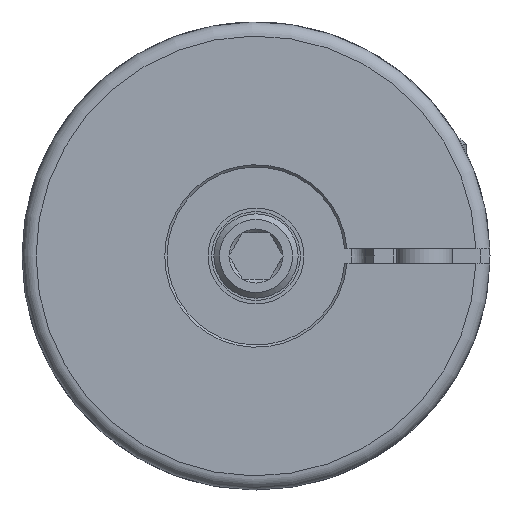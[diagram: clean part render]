
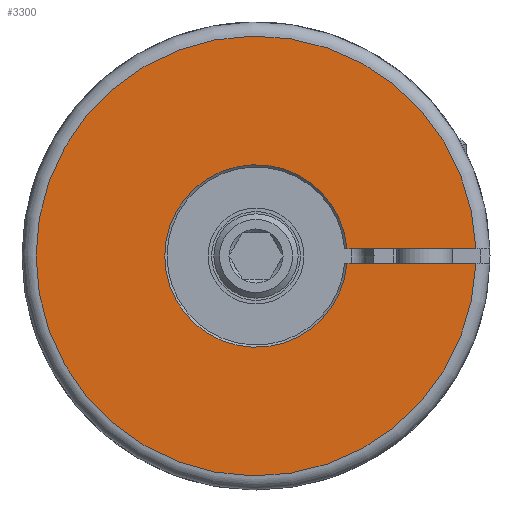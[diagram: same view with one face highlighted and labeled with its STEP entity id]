
A CAD part, left-side view. The second image highlights one B-rep face of the part: STEP entity #3300.
In plain terms, the highlighted planar face has unit normal (-1, 0, 0).
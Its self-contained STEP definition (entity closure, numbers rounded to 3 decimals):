
#138=PLANE('',#4023);
#197=CIRCLE('',#4024,47.);
#198=CIRCLE('',#4025,19.5);
#474=LINE('',#5734,#582);
#475=LINE('',#5739,#583);
#582=VECTOR('',#4553,1000.);
#583=VECTOR('',#4556,1000.);
#702=ORIENTED_EDGE('',*,*,#1712,.T.);
#703=ORIENTED_EDGE('',*,*,#1713,.F.);
#704=ORIENTED_EDGE('',*,*,#1714,.T.);
#705=ORIENTED_EDGE('',*,*,#1715,.T.);
#1712=EDGE_CURVE('',#2217,#2218,#474,.T.);
#1713=EDGE_CURVE('',#2219,#2218,#197,.T.);
#1714=EDGE_CURVE('',#2219,#2220,#475,.T.);
#1715=EDGE_CURVE('',#2220,#2217,#198,.T.);
#2217=VERTEX_POINT('',#5735);
#2218=VERTEX_POINT('',#5736);
#2219=VERTEX_POINT('',#5738);
#2220=VERTEX_POINT('',#5740);
#2655=EDGE_LOOP('',(#702,#703,#704,#705));
#2937=FACE_BOUND('',#2655,.T.);
#3300=ADVANCED_FACE('',(#2937),#138,.F.);
#4023=AXIS2_PLACEMENT_3D('',#5733,#4551,#4552);
#4024=AXIS2_PLACEMENT_3D('',#5737,#4554,#4555);
#4025=AXIS2_PLACEMENT_3D('',#5741,#4557,#4558);
#4551=DIRECTION('',(1.,0.,0.));
#4552=DIRECTION('',(0.,0.,-1.));
#4553=DIRECTION('',(0.,-1.,0.));
#4554=DIRECTION('',(1.,0.,0.));
#4555=DIRECTION('',(0.,0.,-1.));
#4556=DIRECTION('',(0.,1.,0.));
#4557=DIRECTION('',(1.,0.,0.));
#4558=DIRECTION('',(0.,0.,-1.));
#5733=CARTESIAN_POINT('',(0.,0.,0.));
#5734=CARTESIAN_POINT('',(0.,0.,1.5));
#5735=CARTESIAN_POINT('',(0.,-19.442,1.5));
#5736=CARTESIAN_POINT('',(0.,-46.976,1.5));
#5737=CARTESIAN_POINT('',(0.,0.,0.));
#5738=CARTESIAN_POINT('',(0.,-46.976,-1.5));
#5739=CARTESIAN_POINT('',(0.,-51.,-1.5));
#5740=CARTESIAN_POINT('',(0.,-19.442,-1.5));
#5741=CARTESIAN_POINT('',(0.,0.,0.));
